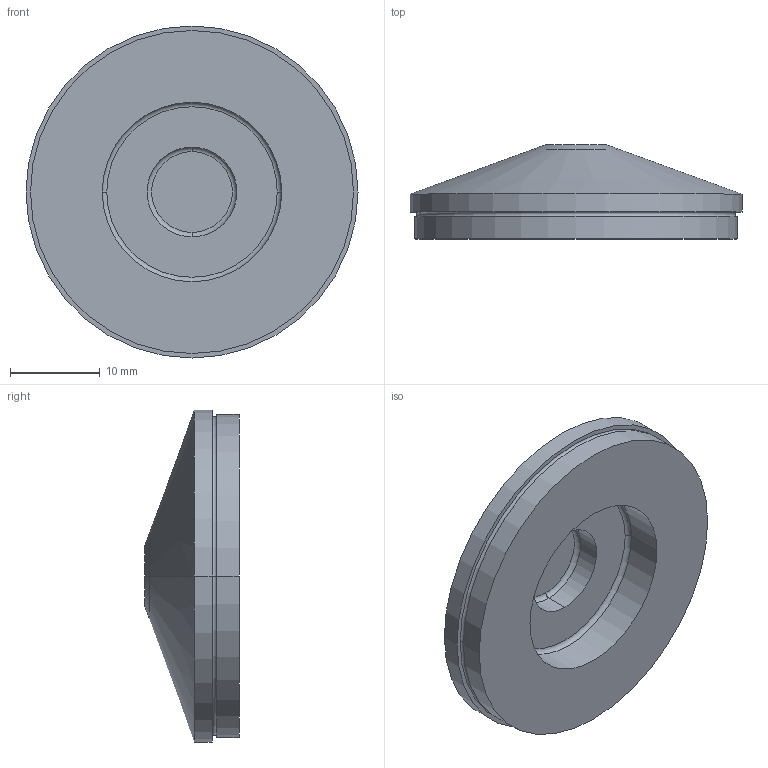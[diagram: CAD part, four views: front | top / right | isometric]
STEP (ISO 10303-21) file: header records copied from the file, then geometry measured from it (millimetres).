
FILE_DESCRIPTION(('FreeCAD Model'),'2;1');
FILE_NAME('Open CASCADE Shape Model','2026-07-02T19:53:38',(''),(''), 'Open CASCADE STEP processor 7.8','FreeCAD','Unknown');
FILE_SCHEMA(('AP242_MANAGED_MODEL_BASED_3D_ENGINEERING_MIM_LF. {1 0 10303 442 1 1 4 }'));
Length unit declared in the file: millimetre
Products named in the file (1): 75T0025
Bounding box: 37 x 10.5 x 37 mm (x, y, z)
Volume: 5946.6 mm3; surface area: 3177 mm2
Topology: 1 solids, 1 shells, 23 faces, 44 edges, 26 vertices
Faces by surface type: cylinder 8, torus 6, plane 5, cone 4
Entity records: 612 total; most frequent: DIRECTION 124, CARTESIAN_POINT 94, ORIENTED_EDGE 88, AXIS2_PLACEMENT_3D 56, EDGE_CURVE 44, CIRCLE 32, FACE_BOUND 26, EDGE_LOOP 26
